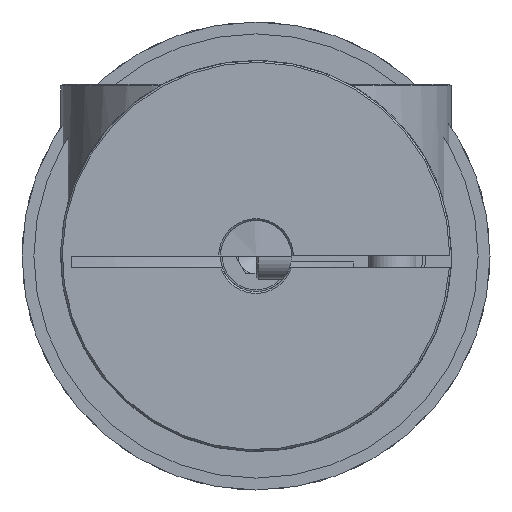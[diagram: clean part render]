
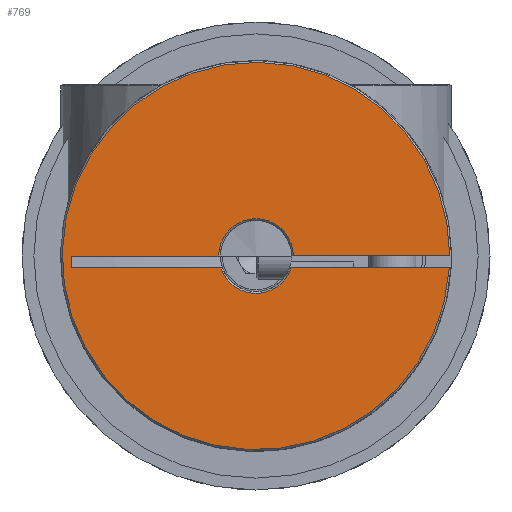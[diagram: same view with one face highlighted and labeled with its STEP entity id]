
A CAD part, left-side view. The second image highlights one B-rep face of the part: STEP entity #769.
In plain terms, the highlighted planar face has unit normal (-1, 0, 0) as drawn and (0, 0, 1) by its records, which use the part's own axes.
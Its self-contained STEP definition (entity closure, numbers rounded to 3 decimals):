
#769 = ADVANCED_FACE( 'NONE', ( #1297 ), #1298, .T. );
#1297 = FACE_OUTER_BOUND( '', #1708, .T. );
#1298 = PLANE( '', #1709 );
#1708 = EDGE_LOOP( '', ( #2500, #2501, #2502, #2503, #2504, #2505, #2506, #2507 ) );
#1709 = AXIS2_PLACEMENT_3D( '', #2508, #2509, #2510 );
#2500 = ORIENTED_EDGE( '', *, *, #2920, .F. );
#2501 = ORIENTED_EDGE( '', *, *, #2961, .T. );
#2502 = ORIENTED_EDGE( '', *, *, #2962, .F. );
#2503 = ORIENTED_EDGE( '', *, *, #2954, .T. );
#2504 = ORIENTED_EDGE( '', *, *, #2956, .T. );
#2505 = ORIENTED_EDGE( '', *, *, #2915, .T. );
#2506 = ORIENTED_EDGE( '', *, *, #2958, .T. );
#2507 = ORIENTED_EDGE( '', *, *, #2960, .F. );
#2508 = CARTESIAN_POINT( '', ( 0., 0., 29. ) );
#2509 = DIRECTION( '', ( 0., 0., 1. ) );
#2510 = DIRECTION( '', ( 1., 0., 0. ) );
#2915 = EDGE_CURVE( 'NONE', #3345, #3342, #3346, .F. );
#2920 = EDGE_CURVE( 'NONE', #3353, #3355, #3356, .F. );
#2954 = EDGE_CURVE( 'NONE', #3414, #3412, #3415, .T. );
#2956 = EDGE_CURVE( 'NONE', #3412, #3345, #3417, .T. );
#2958 = EDGE_CURVE( 'NONE', #3342, #3420, #3421, .T. );
#2960 = EDGE_CURVE( 'NONE', #3355, #3420, #3423, .F. );
#2961 = EDGE_CURVE( 'NONE', #3353, #3424, #3425, .F. );
#2962 = EDGE_CURVE( 'NONE', #3414, #3424, #3426, .F. );
#3342 = VERTEX_POINT( 'NONE', #4244 );
#3345 = VERTEX_POINT( 'NONE', #4250 );
#3346 = CIRCLE( '', #4251, 6.3 );
#3353 = VERTEX_POINT( 'NONE', #4262 );
#3355 = VERTEX_POINT( 'NONE', #4265 );
#3356 = LINE( '', #4266, #4267 );
#3412 = VERTEX_POINT( 'NONE', #4499 );
#3414 = VERTEX_POINT( 'NONE', #4504 );
#3415 = CIRCLE( '', #4505, 32.7 );
#3417 = LINE( '', #4508, #4509 );
#3420 = VERTEX_POINT( 'NONE', #4512 );
#3421 = LINE( '', #4513, #4514 );
#3423 = LINE( '', #4516, #4517 );
#3424 = VERTEX_POINT( 'NONE', #4518 );
#3425 = CIRCLE( '', #4519, 6.3 );
#3426 = LINE( '', #4520, #4521 );
#4244 = CARTESIAN_POINT( '', ( -5.974, -2., 29. ) );
#4250 = CARTESIAN_POINT( '', ( 5.974, -2., 29. ) );
#4251 = AXIS2_PLACEMENT_3D( '', #4851, #4852, #4853 );
#4262 = CARTESIAN_POINT( '', ( -6.3, 0., 29. ) );
#4265 = CARTESIAN_POINT( '', ( -31.103, 0., 29. ) );
#4266 = CARTESIAN_POINT( '', ( 16.5, 0., 29. ) );
#4267 = VECTOR( '', #4859, 1000. );
#4499 = CARTESIAN_POINT( '', ( 32.639, -2., 29. ) );
#4504 = CARTESIAN_POINT( '', ( 32.7, 0., 29. ) );
#4505 = AXIS2_PLACEMENT_3D( '', #4920, #4921, #4922 );
#4508 = CARTESIAN_POINT( '', ( 0., -2., 29. ) );
#4509 = VECTOR( '', #4924, 1000. );
#4512 = CARTESIAN_POINT( '', ( -31.103, -2., 29. ) );
#4513 = CARTESIAN_POINT( '', ( 0., -2., 29. ) );
#4514 = VECTOR( '', #4928, 1000. );
#4516 = CARTESIAN_POINT( '', ( -31.103, -2., 29. ) );
#4517 = VECTOR( '', #4932, 1000. );
#4518 = CARTESIAN_POINT( '', ( 6.3, 0., 29. ) );
#4519 = AXIS2_PLACEMENT_3D( '', #4933, #4934, #4935 );
#4520 = CARTESIAN_POINT( '', ( 16.5, 0., 29. ) );
#4521 = VECTOR( '', #4936, 1000. );
#4851 = CARTESIAN_POINT( '', ( 0., 0., 29. ) );
#4852 = DIRECTION( '', ( 0., 0., 1. ) );
#4853 = DIRECTION( '', ( 1., 0., 0. ) );
#4859 = DIRECTION( '', ( 1., 0., 0. ) );
#4920 = CARTESIAN_POINT( '', ( 0., 0., 29. ) );
#4921 = DIRECTION( '', ( 0., 0., 1. ) );
#4922 = DIRECTION( '', ( 1., 0., 0. ) );
#4924 = DIRECTION( '', ( -1., 0., 0. ) );
#4928 = DIRECTION( '', ( -1., 0., 0. ) );
#4932 = DIRECTION( '', ( 0., 1., 0. ) );
#4933 = CARTESIAN_POINT( '', ( 0., 0., 29. ) );
#4934 = DIRECTION( '', ( 0., 0., 1. ) );
#4935 = DIRECTION( '', ( 1., 0., 0. ) );
#4936 = DIRECTION( '', ( 1., 0., 0. ) );
